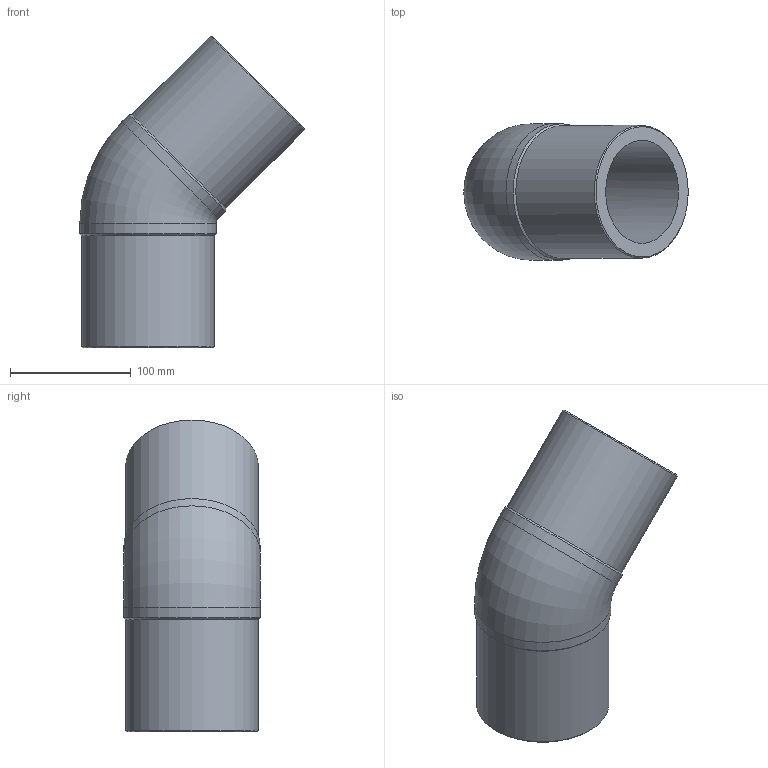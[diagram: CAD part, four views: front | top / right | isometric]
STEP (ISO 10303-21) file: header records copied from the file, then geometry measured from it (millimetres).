
FILE_DESCRIPTION(/* description */ ('Unknown'),/* implementation_level */ '2;1');
FILE_NAME(/* name */ 'G4P110G',/* time_stamp */ '2022-01-20T17:13:52+01:00',/* author */ ('Unknown'),/* organization */ ('Unknown'),/* preprocessor_version */ 'ST-DEVELOPER v18.1',/* originating_system */ 'Solid Edge',/* authorisation */ 'Unknown');
FILE_SCHEMA (('AUTOMOTIVE_DESIGN {1 0 10303 214 3 1 1}'));
Length unit declared in the file: millimetre
Products named in the file (1): G4P110G
Bounding box: 185.9 x 113 x 258.4 mm (x, y, z)
Volume: 1000838.3 mm3; surface area: 164972.9 mm2
Topology: 1 solids, 1 shells, 14 faces, 34 edges, 22 vertices
Faces by surface type: cylinder 6, cone 4, plane 2, torus 2
Full cylindrical faces by diameter (mm): 85.4 x2, 110 x2, 113 x2
Entity records: 366 total; most frequent: CARTESIAN_POINT 66, DIRECTION 60, ORIENTED_EDGE 38, AXIS2_PLACEMENT_3D 30, EDGE_LOOP 27, FACE_BOUND 27, EDGE_CURVE 19, VERTEX_POINT 18
